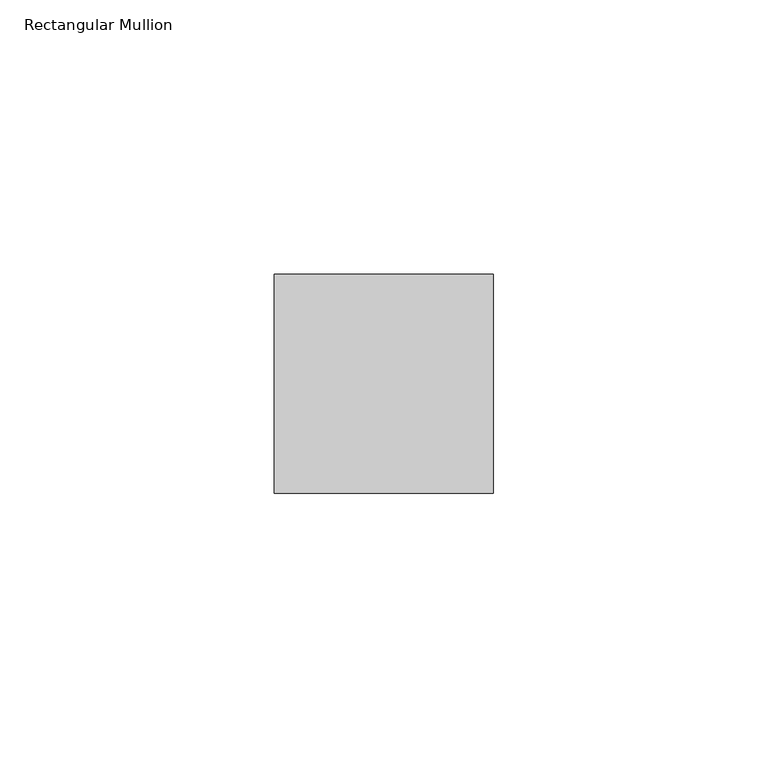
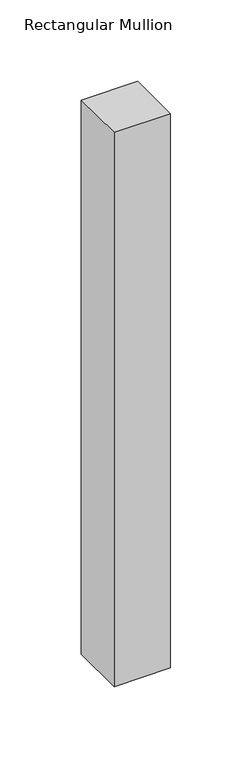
"""IFC4 building model written with IfcOpenShell, lengths in millimetres: member geometry, Rectangular Mullion : Danpal_NM_Middle-V-Mullion."""

from ifc_helpers import new_model, si_unit, frame, origin, place, context, project, spatial, polyline, outline, extrude, source, transform, mapped, element, save


def rectangular_mullion_4e7e75c6(model_context):
    return source(origin(), model_context, "Body", "SweptSolid", [
        extrude(outline(polyline([(0.0, 13.2378279), (-40.0, 13.2378279), (-40.0, 53.2378279), (0.0, 53.2378279), (0.0, 13.2378279)])), frame((0.0, 0.0, -415.2700979), z_axis=(0.0, 0.0, 1.0), x_axis=(1.0, 0.0, 0.0)), (0.0, 0.0, 1.0), 415.2700979),
    ])


if __name__ == "__main__":
    model = new_model("IFC4")
    model_context = context("Model", 3, world=origin())
    ifc_project = project(units=[si_unit("LENGTHUNIT", "METRE", prefix="MILLI")], contexts=[model_context])
    site = spatial("IfcSite", under=ifc_project)
    building = spatial("IfcBuilding", under=site)
    placement = place(None, origin())
    rectangular_mullion_shape = rectangular_mullion_4e7e75c6(model_context)
    element("IfcMember", 1, ObjectType="Rectangular Mullion : Danpal_NM_Middle-V-Mullion", at=placement, inside=building, context=model_context, shape_type="MappedRepresentation", body=[
        mapped(rectangular_mullion_shape, transform((0.0, 0.0, 0.0), x_axis=(1.0, 0.0, 0.0), y_axis=(0.0, 1.0, 0.0), z_axis=(0.0, 0.0, 1.0))),
    ])
    save(model, "model.ifc")
